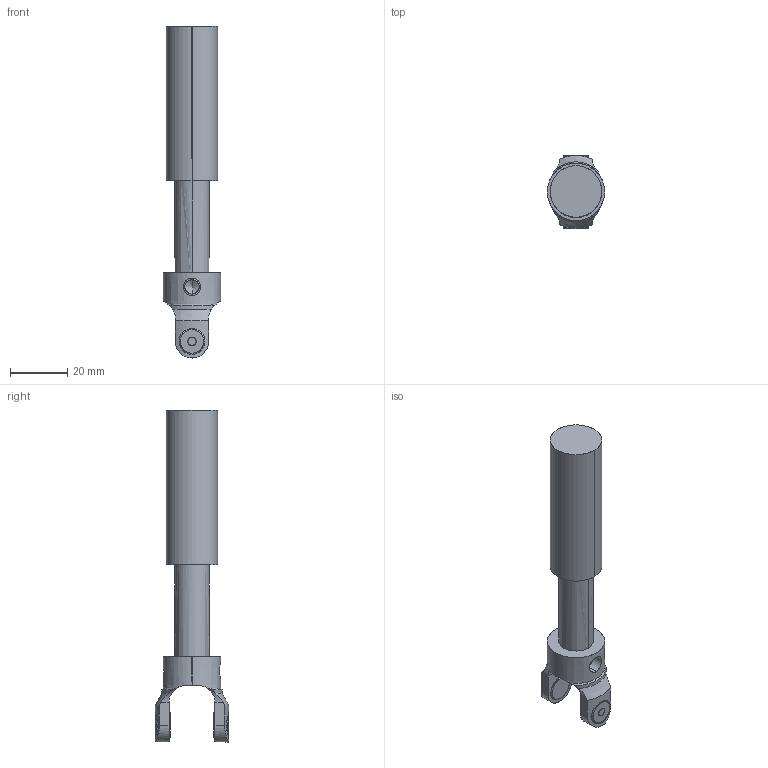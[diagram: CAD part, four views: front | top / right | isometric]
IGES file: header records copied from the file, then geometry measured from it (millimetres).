
Start section: SolidWorks IGES file using analytic representation for surfaces
Global section: file name: C:\Users\SELUHAA\Desktop\Work items\545792\IGES\IRB360_X-1130-WDS-4D_rev03_IGES_J\IRB360_X-1130-WDS-4D_rev03_U_CAD.IGS; native system: SolidWorks 2022; preprocessor: SolidWorks 2022; author: SELUHAA; date: 231204.111851; units: millimetre
Bounding box: 20 x 25.5 x 115.8 mm (x, y, z)
Surface area: 8401.3 mm2 (no closed solid volume)
Topology: 0 solids, 0 shells, 80 faces, 1542 edges, 1538 vertices
Faces by surface type: revolution 46, bspline 34
